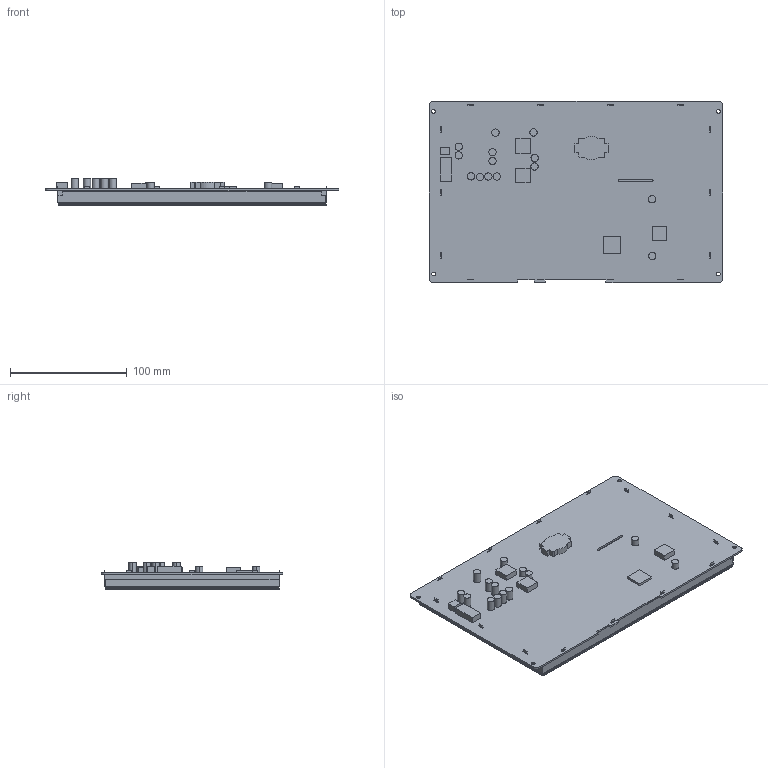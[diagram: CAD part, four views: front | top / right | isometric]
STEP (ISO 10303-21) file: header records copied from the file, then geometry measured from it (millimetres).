
FILE_DESCRIPTION((''),'2;1');
FILE_NAME('DMG12800S101_01WN_ASM','2025-06-11T',('Administrator'),(''),'PRO/ENGINEER BY PARAMETRIC TECHNOLOGY CORPORATION, 2014320','PRO/ENGINEER BY PARAMETRIC TECHNOLOGY CORPORATION, 2014320','');
FILE_SCHEMA(('AUTOMOTIVE_DESIGN_CC2 { 1 2 10303 214 -1 1 5 2 }'));
Length unit declared in the file: millimetre
Products named in the file (5): PCB250611; TK; LCM; CTP; DMG12800S101_01WN_ASM
Assembly tree (4 placements, depth 2):
  DMG12800S101_01WN_ASM
    PCB250611
    TK
    LCM
    CTP
Bounding box: 251.56 x 155.32 x 23.7 mm (x, y, z)
Volume: 374219 mm3; surface area: 254172.1 mm2
Topology: 4 solids, 4 shells, 429 faces, 1176 edges, 784 vertices
Faces by surface type: plane 298, cylinder 131
Entity records: 15460 total; most frequent: CARTESIAN_POINT 2398, ORIENTED_EDGE 2352, DIRECTION 2314, EDGE_CURVE 1176, VECTOR 914, LINE 914, VERTEX_POINT 784, AXIS2_PLACEMENT_3D 700
